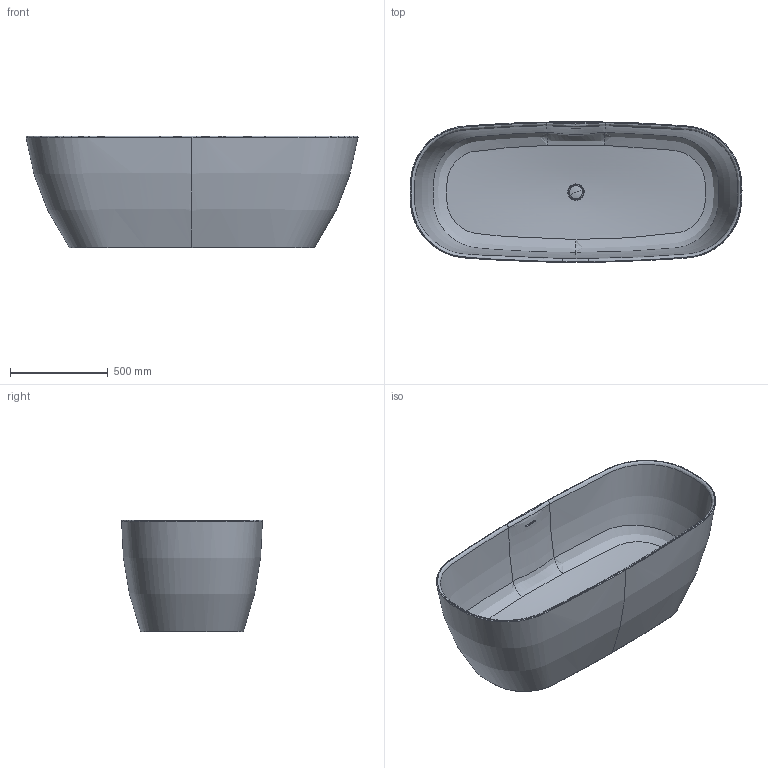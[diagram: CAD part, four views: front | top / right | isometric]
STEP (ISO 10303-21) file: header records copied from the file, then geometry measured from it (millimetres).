
FILE_DESCRIPTION(/* description */ (''),/* implementation_level */ '2;1');
FILE_NAME(/* name */ 'PLAY_tub',/* time_stamp */ '2024-05-03T11:15:37+02:00',/* author */ (''),/* organization */ (''),/* preprocessor_version */ 'ST-DEVELOPER v16.5',/* originating_system */ 'Rhino 7.36',/* authorisation */ '');
FILE_SCHEMA (('CONFIG_CONTROL_DESIGN'));
Length unit declared in the file: millimetre
Products named in the file (1): Document
Bounding box: 1697.98 x 720.07 x 570 mm (x, y, z)
Volume: 64123779.9 mm3; surface area: 5822536.3 mm2
Topology: 2 solids, 2 shells, 92 faces, 208 edges, 120 vertices
Faces by surface type: bspline 64, plane 17, cylinder 11
Entity records: 89239 total; most frequent: CARTESIAN_POINT 87958, ORIENTED_EDGE 412, EDGE_CURVE 206, VERTEX_POINT 120, EDGE_LOOP 96, ADVANCED_FACE 92, FACE_OUTER_BOUND 92, B_SPLINE_CURVE_WITH_KNOTS 67
